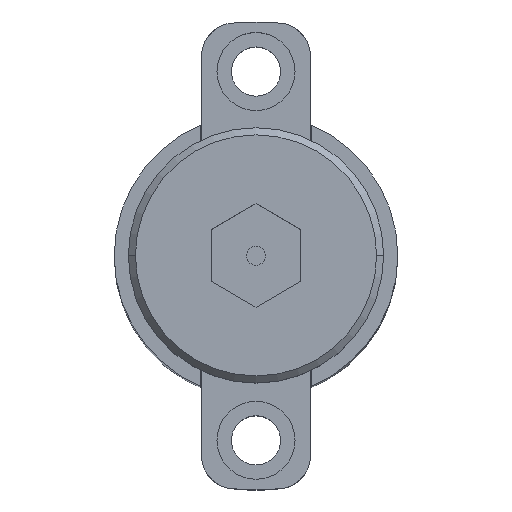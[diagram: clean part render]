
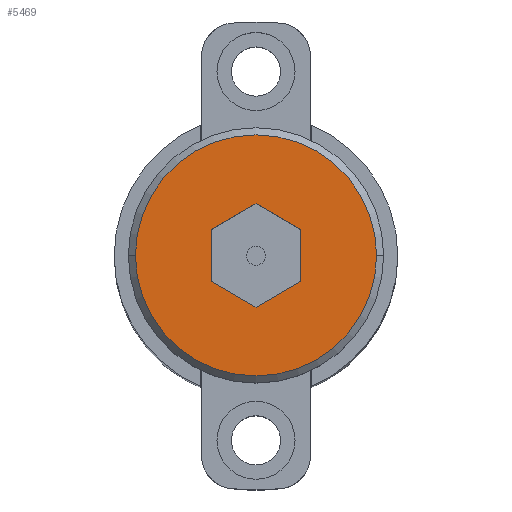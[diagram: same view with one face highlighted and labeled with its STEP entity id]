
A CAD part, top view. The second image highlights one B-rep face of the part: STEP entity #5469.
In plain terms, the highlighted planar face has unit normal (0, 0, 1).
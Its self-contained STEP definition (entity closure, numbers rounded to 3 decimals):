
#69 = ORIENTED_EDGE ( 'NONE', *, *, #11817, .F. ) ;
#148 = VERTEX_POINT ( 'NONE', #6926 ) ;
#374 = DIRECTION ( 'NONE',  ( 0., -1., 0. ) ) ;
#1002 = VERTEX_POINT ( 'NONE', #7281 ) ;
#1257 = EDGE_CURVE ( 'NONE', #14153, #2442, #7703, .T. ) ;
#1520 = EDGE_CURVE ( 'NONE', #12622, #1002, #5850, .T. ) ;
#1707 = CARTESIAN_POINT ( 'NONE',  ( 9.5, 5.485, 0. ) ) ;
#1786 = VECTOR ( 'NONE', #374, 1000. ) ;
#2081 = EDGE_CURVE ( 'NONE', #2442, #8252, #9693, .T. ) ;
#2137 = EDGE_LOOP ( 'NONE', ( #2686, #15054 ) ) ;
#2442 = VERTEX_POINT ( 'NONE', #2865 ) ;
#2686 = ORIENTED_EDGE ( 'NONE', *, *, #4021, .T. ) ;
#2865 = CARTESIAN_POINT ( 'NONE',  ( 0., -10.97, 0. ) ) ;
#2933 = EDGE_CURVE ( 'NONE', #148, #5365, #9676, .T. ) ;
#3074 = ORIENTED_EDGE ( 'NONE', *, *, #7931, .F. ) ;
#3449 = VECTOR ( 'NONE', #14131, 1000. ) ;
#4021 = EDGE_CURVE ( 'NONE', #5365, #148, #14060, .T. ) ;
#4063 = DIRECTION ( 'NONE',  ( 0., 0., -1. ) ) ;
#4577 = VECTOR ( 'NONE', #14963, 1000. ) ;
#4834 = AXIS2_PLACEMENT_3D ( 'NONE', #11844, #4861, #13020 ) ;
#4861 = DIRECTION ( 'NONE',  ( 0., 0., 1. ) ) ;
#5151 = CARTESIAN_POINT ( 'NONE',  ( 9.5, -5.485, 0. ) ) ;
#5153 = DIRECTION ( 'NONE',  ( 0., 0., 1. ) ) ;
#5365 = VERTEX_POINT ( 'NONE', #11937 ) ;
#5469 = ADVANCED_FACE ( 'NONE', ( #14037, #9310 ), #11048, .F. ) ;
#5660 = CARTESIAN_POINT ( 'NONE',  ( -9.5, -5.485, 0. ) ) ;
#5696 = EDGE_CURVE ( 'NONE', #7812, #12622, #11836, .T. ) ;
#5711 = CARTESIAN_POINT ( 'NONE',  ( -9.5, -5.485, 0. ) ) ;
#5850 = LINE ( 'NONE', #7223, #14779 ) ;
#6581 = CARTESIAN_POINT ( 'NONE',  ( 9.5, -5.485, 0. ) ) ;
#6876 = ORIENTED_EDGE ( 'NONE', *, *, #2081, .F. ) ;
#6926 = CARTESIAN_POINT ( 'NONE',  ( 25.5, 0., 0. ) ) ;
#6935 = AXIS2_PLACEMENT_3D ( 'NONE', #12178, #4063, #12239 ) ;
#7223 = CARTESIAN_POINT ( 'NONE',  ( 0., 10.97, 0. ) ) ;
#7281 = CARTESIAN_POINT ( 'NONE',  ( -9.5, 5.485, 0. ) ) ;
#7333 = CARTESIAN_POINT ( 'NONE',  ( 0., 10.97, 0. ) ) ;
#7356 = CARTESIAN_POINT ( 'NONE',  ( -9.5, 5.485, 0. ) ) ;
#7610 = LINE ( 'NONE', #5151, #10692 ) ;
#7703 = LINE ( 'NONE', #5660, #4577 ) ;
#7812 = VERTEX_POINT ( 'NONE', #1707 ) ;
#7931 = EDGE_CURVE ( 'NONE', #1002, #14153, #14155, .T. ) ;
#8252 = VERTEX_POINT ( 'NONE', #6581 ) ;
#8338 = CARTESIAN_POINT ( 'NONE',  ( 0., -10.97, 0. ) ) ;
#9174 = AXIS2_PLACEMENT_3D ( 'NONE', #12129, #5153, #13300 ) ;
#9310 = FACE_OUTER_BOUND ( 'NONE', #2137, .T. ) ;
#9485 = ORIENTED_EDGE ( 'NONE', *, *, #1257, .F. ) ;
#9676 = CIRCLE ( 'NONE', #4834, 25.5 ) ;
#9693 = LINE ( 'NONE', #8338, #3449 ) ;
#10175 = CARTESIAN_POINT ( 'NONE',  ( 9.5, 5.485, 0. ) ) ;
#10391 = ORIENTED_EDGE ( 'NONE', *, *, #1520, .F. ) ;
#10692 = VECTOR ( 'NONE', #12127, 1000. ) ;
#11048 = PLANE ( 'NONE',  #6935 ) ;
#11134 = VECTOR ( 'NONE', #14843, 1000. ) ;
#11783 = ORIENTED_EDGE ( 'NONE', *, *, #5696, .F. ) ;
#11817 = EDGE_CURVE ( 'NONE', #8252, #7812, #7610, .T. ) ;
#11836 = LINE ( 'NONE', #10175, #11134 ) ;
#11844 = CARTESIAN_POINT ( 'NONE',  ( 0., 0., 0. ) ) ;
#11937 = CARTESIAN_POINT ( 'NONE',  ( -25.5, 0., 0. ) ) ;
#12127 = DIRECTION ( 'NONE',  ( 0., 1., 0. ) ) ;
#12129 = CARTESIAN_POINT ( 'NONE',  ( 0., 0., 0. ) ) ;
#12178 = CARTESIAN_POINT ( 'NONE',  ( 0., 25.5, 0. ) ) ;
#12239 = DIRECTION ( 'NONE',  ( -1., 0., 0. ) ) ;
#12622 = VERTEX_POINT ( 'NONE', #7333 ) ;
#13020 = DIRECTION ( 'NONE',  ( 1., 0., 0. ) ) ;
#13030 = DIRECTION ( 'NONE',  ( -0.866, -0.5, 0. ) ) ;
#13300 = DIRECTION ( 'NONE',  ( 1., 0., 0. ) ) ;
#13998 = EDGE_LOOP ( 'NONE', ( #10391, #11783, #69, #6876, #9485, #3074 ) ) ;
#14037 = FACE_BOUND ( 'NONE', #13998, .T. ) ;
#14060 = CIRCLE ( 'NONE', #9174, 25.5 ) ;
#14131 = DIRECTION ( 'NONE',  ( 0.866, 0.5, 0. ) ) ;
#14153 = VERTEX_POINT ( 'NONE', #5711 ) ;
#14155 = LINE ( 'NONE', #7356, #1786 ) ;
#14779 = VECTOR ( 'NONE', #13030, 1000. ) ;
#14843 = DIRECTION ( 'NONE',  ( -0.866, 0.5, 0. ) ) ;
#14963 = DIRECTION ( 'NONE',  ( 0.866, -0.5, 0. ) ) ;
#15054 = ORIENTED_EDGE ( 'NONE', *, *, #2933, .T. ) ;
